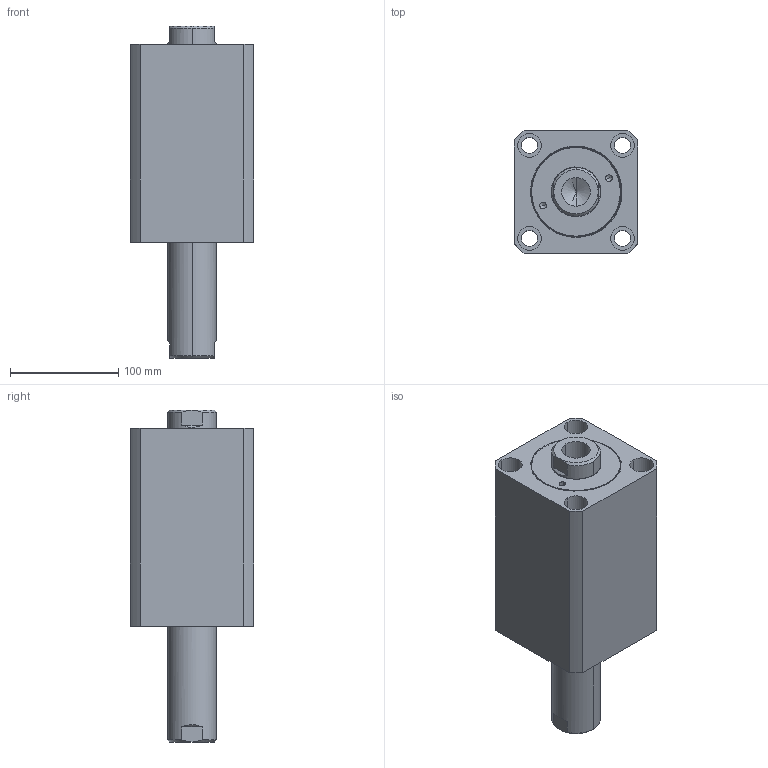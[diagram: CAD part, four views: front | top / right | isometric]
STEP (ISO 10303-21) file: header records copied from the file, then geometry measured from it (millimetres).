
FILE_DESCRIPTION (( 'STEP AP214' ), '1' );
FILE_NAME ('chtb-sw80x90n_asm.STEP', '2018-05-28T00:55:33', ( 'Windows' ), ( 'Microsoft' ), 'SwSTEP 2.0', 'SolidWorks 2015', '' );
FILE_SCHEMA (( 'AUTOMOTIVE_DESIGN' ));
Length unit declared in the file: millimetre
Products named in the file (4): CHTB-SW80X90NBT; CHTB-SD80QG; CHTB-SD80X90NHSG; chtb-sw80x90n_asm
Assembly tree (3 placements, depth 2):
  chtb-sw80x90n_asm
    CHTB-SD80X90NHSG
    CHTB-SD80QG
    CHTB-SW80X90NBT
Bounding box: 114 x 114 x 307 mm (x, y, z)
Volume: 2018754.6 mm3; surface area: 273910.9 mm2
Topology: 3 solids, 3 shells, 208 faces, 550 edges, 365 vertices
Faces by surface type: cylinder 109, plane 42, cone 25, torus 18, bspline 14
Entity records: 15645 total; most frequent: CARTESIAN_POINT 10539, ORIENTED_EDGE 1084, DIRECTION 970, EDGE_CURVE 542, AXIS2_PLACEMENT_3D 407, VERTEX_POINT 365, EDGE_LOOP 249, ADVANCED_FACE 208
